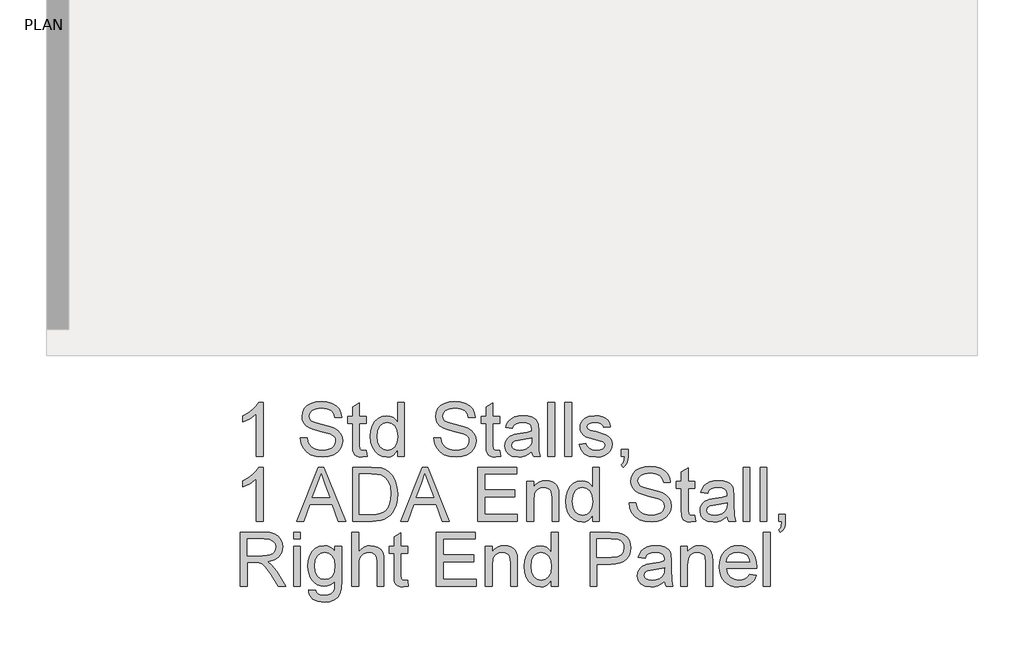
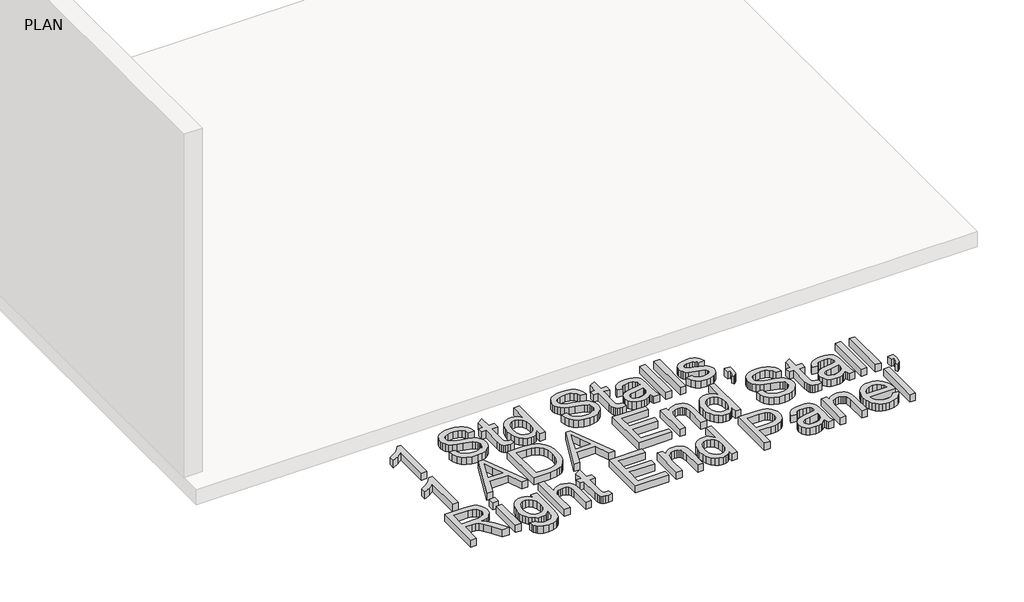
# One storey, part 18 of 21: 1 proxy.
"""IFC4 building model written with IfcOpenShell, lengths in millimetres."""

from ifc_helpers import new_model, si_unit, origin, origin_with_axes, place, context, project, spatial, polyline, outline, extrude, element, save

model = new_model("IFC4")

# Units and contexts
model_context = context("Model", 3, world=origin())
ifc_project = project(units=[si_unit("LENGTHUNIT", "METRE", prefix="MILLI")], contexts=[model_context])

# Site, building, storey
site = spatial("IfcSite", under=ifc_project)
building = spatial("IfcBuilding", under=site)
storey = spatial("IfcBuildingStorey", under=building, Name="PLAN", Elevation=0.0)

# Proxy
placement = place(None, origin())
element("IfcBuildingElementProxy", 1, Name="12\" Arial", ObjectType="12\" Arial", at=placement, inside=storey, context=model_context, shape_type="SweptSolid", body=[
    extrude(outline(polyline([(-13945.8570007, 20781.8395639), (-13983.9278874, 20781.8395639), (-13983.9278874, 21019.1877485), (-14019.9911298, 20993.4973357), (-14060.069661, 20974.2759993), (-14060.069661, 21010.2648844), (-14030.1687716, 21026.5305221), (-14004.2645818, 21045.8819836), (-13983.8442356, 21066.4603389), (-13970.3948769, 21086.4066579), (-13945.8570007, 21086.4066579), (-13945.8570007, 20781.8395639)])), origin_with_axes(), (0.0, 0.0, 1.0), 50.8),
    extrude(outline(polyline([(-13736.4671235, 20886.5345025), (-13698.3962368, 20886.5345025), (-13694.0277512, 20865.4077628), (-13686.1272986, 20848.4264371), (-13673.8025926, 20834.9491945), (-13656.1613468, 20824.3347041), (-13634.5977586, 20817.4473684), (-13610.5060255, 20815.1515898), (-13589.295634, 20816.8896894), (-13570.7249232, 20822.1039881), (-13555.6768847, 20830.3576373), (-13545.0345103, 20841.2137886), (-13538.7048536, 20853.6779144), (-13536.594968, 20866.7554871), (-13538.1750585, 20879.4984523), (-13542.9153301, 20890.5126127), (-13552.5445876, 20899.9095039), (-13568.7916359, 20907.8006619), (-13624.2249291, 20922.3374946), (-13660.6134842, 20931.9574574), (-13683.8965826, 20941.1126878), (-13702.8483741, 20953.9207156), (-13716.2791435, 20969.4427812), (-13724.2818373, 20987.3442773), (-13726.9494018, 21007.2905964), (-13723.649801, 21029.588462), (-13713.7509987, 21050.3805942), (-13697.513245, 21068.0032508), (-13675.1967901, 21080.7926893), (-13648.4096086, 21088.5723114), (-13618.7596748, 21091.1655188), (-13586.6373641, 21088.451481), (-13558.5303422, 21080.3093675), (-13535.4424314, 21066.9064821), (-13518.3774539, 21048.4101284), (-13507.5770705, 21025.9728431), (-13503.2829421, 21000.7471627), (-13541.3538289, 21000.7471627), (-13548.3434057, 21023.4632876), (-13562.9174171, 21039.8590503), (-13585.6893098, 21049.7857366), (-13617.2725308, 21053.094632), (-13649.5993238, 21049.8229152), (-13671.7763589, 21040.0077647), (-13684.602976, 21025.5638785), (-13688.8785151, 21008.4059544), (-13685.8484591, 20993.7761752), (-13676.7582914, 20982.0091482), (-13655.2690604, 20971.4876043), (-13614.5956716, 20960.7429888), (-13572.6210318, 20950.537463), (-13547.2280477, 20941.6331882), (-13525.5250398, 20927.8213382), (-13510.3840548, 20910.7749499), (-13501.4890747, 20890.6799164), (-13498.5240813, 20867.7221307), (-13501.9352179, 20844.2531392), (-13512.1686276, 20822.1783453), (-13528.8060513, 20803.1800805), (-13551.4292296, 20788.9406765), (-13578.6346704, 20780.0456964), (-13609.0188815, 20777.080703), (-13646.3183123, 20780.2780627), (-13677.0185416, 20789.8701416), (-13701.4727659, 20805.8941183), (-13720.0341822, 20828.3871715), (-13731.9499236, 20855.7878), (-13736.4671235, 20886.5345025)])), origin_with_axes(), (0.0, 0.0, 1.0), 50.8),
    extrude(outline(polyline([(-13365.2759776, 20813.5900886), (-13360.5171168, 20780.7242059), (-13388.9959246, 20777.080703), (-13407.2692067, 20778.6607935), (-13420.8951637, 20783.4010651), (-13430.5244212, 20790.7066601), (-13436.8076047, 20799.9827208), (-13440.2652145, 20815.9137511), (-13441.4177511, 20843.1842545), (-13441.4177511, 20967.4351368), (-13469.9709162, 20967.4351368), (-13469.9709162, 21005.5060236), (-13441.4177511, 21005.5060236), (-13441.4177511, 21059.8611373), (-13403.3468644, 21082.2426547), (-13403.3468644, 21005.5060236), (-13365.2759776, 21005.5060236), (-13365.2759776, 20967.4351368), (-13403.3468644, 20967.4351368), (-13403.3468644, 20844.2996125), (-13401.33922, 20824.6693115), (-13394.8329649, 20817.7169132), (-13381.8576334, 20815.1515898), (-13365.2759776, 20813.5900886)])), origin_with_axes(), (0.0, 0.0, 1.0), 50.8),
    extrude(outline(polyline([(-13189.1981264, 20781.8395639), (-13189.1981264, 20817.7540918), (-13200.58872, 20799.9594842), (-13214.3866281, 20787.2490502), (-13230.5918505, 20779.6227898), (-13249.2043873, 20777.080703), (-13273.8166208, 20780.7613845), (-13296.3468526, 20791.8034288), (-13315.4194746, 20809.43538), (-13329.6588785, 20832.8857822), (-13338.5259747, 20861.206581), (-13341.4816734, 20893.4497221), (-13338.7583409, 20925.2931933), (-13330.5883435, 20954.0508407), (-13316.9809758, 20978.0868058), (-13297.9455324, 20995.7652303), (-13274.9226841, 21006.6399709), (-13249.3531017, 21010.2648844), (-13230.726623, 21007.6716771), (-13214.256503, 20999.8920549), (-13200.2959386, 20987.9670189), (-13189.1981264, 20972.9375697), (-13189.1981264, 21086.4066579), (-13151.1272396, 21086.4066579), (-13151.1272396, 20781.8395639), (-13189.1981264, 20781.8395639)]), holes=[polyline([(-13303.4107866, 20893.5984365), (-13299.1166583, 20859.161758), (-13286.2342733, 20834.670355), (-13267.514848, 20820.0312811), (-13245.7095989, 20815.1515898), (-13223.9136444, 20819.8082095), (-13205.6682463, 20833.7780686), (-13193.3156564, 20857.3214172), (-13189.1981264, 20890.6985057), (-13193.3900136, 20927.1893019), (-13205.9656751, 20952.4893395), (-13224.6758057, 20967.2678331), (-13247.2711001, 20972.1939977), (-13269.2994208, 20967.4630208), (-13287.3496313, 20953.2700901), (-13299.3954978, 20928.8902229), (-13303.4107866, 20893.5984365)])]), origin_with_axes(), (0.0, 0.0, 1.0), 50.8),
    extrude(outline(polyline([(-12984.56711, 20886.5345025), (-12946.4962233, 20886.5345025), (-12942.1277377, 20865.4077628), (-12934.2272852, 20848.4264371), (-12921.9025791, 20834.9491945), (-12904.2613333, 20824.3347041), (-12882.6977451, 20817.4473684), (-12858.606012, 20815.1515898), (-12837.3956205, 20816.8896894), (-12818.8249097, 20822.1039881), (-12803.7768712, 20830.3576373), (-12793.1344968, 20841.2137886), (-12786.8048401, 20853.6779144), (-12784.6949546, 20866.7554871), (-12786.2750451, 20879.4984523), (-12791.0153166, 20890.5126127), (-12800.6445741, 20899.9095039), (-12816.8916225, 20907.8006619), (-12872.3249156, 20922.3374946), (-12908.7134707, 20931.9574574), (-12931.9965691, 20941.1126878), (-12950.9483607, 20953.9207156), (-12964.37913, 20969.4427812), (-12972.3818238, 20987.3442773), (-12975.0493883, 21007.2905964), (-12971.7497876, 21029.588462), (-12961.8509852, 21050.3805942), (-12945.6132315, 21068.0032508), (-12923.2967767, 21080.7926893), (-12896.5095951, 21088.5723114), (-12866.8596613, 21091.1655188), (-12834.7373506, 21088.451481), (-12806.6303288, 21080.3093675), (-12783.5424179, 21066.9064821), (-12766.4774404, 21048.4101284), (-12755.677057, 21025.9728431), (-12751.3829286, 21000.7471627), (-12789.4538154, 21000.7471627), (-12796.4433923, 21023.4632876), (-12811.0174036, 21039.8590503), (-12833.7892963, 21049.7857366), (-12865.3725173, 21053.094632), (-12897.6993103, 21049.8229152), (-12919.8763454, 21040.0077647), (-12932.7029625, 21025.5638785), (-12936.9785016, 21008.4059544), (-12933.9484457, 20993.7761752), (-12924.8582779, 20982.0091482), (-12903.3690469, 20971.4876043), (-12862.6956581, 20960.7429888), (-12820.7210183, 20950.537463), (-12795.3280343, 20941.6331882), (-12773.6250263, 20927.8213382), (-12758.4840413, 20910.7749499), (-12749.5890612, 20890.6799164), (-12746.6240678, 20867.7221307), (-12750.0352044, 20844.2531392), (-12760.2686141, 20822.1783453), (-12776.9060378, 20803.1800805), (-12799.5292161, 20788.9406765), (-12826.7346569, 20780.0456964), (-12857.118868, 20777.080703), (-12894.4182988, 20780.2780627), (-12925.1185281, 20789.8701416), (-12949.5727525, 20805.8941183), (-12968.1341687, 20828.3871715), (-12980.0499101, 20855.7878), (-12984.56711, 20886.5345025)])), origin_with_axes(), (0.0, 0.0, 1.0), 50.8),
    extrude(outline(polyline([(-12613.3759641, 20813.5900886), (-12608.6171033, 20780.7242059), (-12637.0959112, 20777.080703), (-12655.3691932, 20778.6607935), (-12668.9951503, 20783.4010651), (-12678.6244078, 20790.7066601), (-12684.9075912, 20799.9827208), (-12688.365201, 20815.9137511), (-12689.5177377, 20843.1842545), (-12689.5177377, 20967.4351368), (-12718.0709027, 20967.4351368), (-12718.0709027, 21005.5060236), (-12689.5177377, 21005.5060236), (-12689.5177377, 21059.8611373), (-12651.4468509, 21082.2426547), (-12651.4468509, 21005.5060236), (-12613.3759641, 21005.5060236), (-12613.3759641, 20967.4351368), (-12651.4468509, 20967.4351368), (-12651.4468509, 20844.2996125), (-12649.4392065, 20824.6693115), (-12642.9329514, 20817.7169132), (-12629.9576199, 20815.1515898), (-12613.3759641, 20813.5900886)])), origin_with_axes(), (0.0, 0.0, 1.0), 50.8),
    extrude(outline(polyline([(-12432.539252, 20810.3927289), (-12450.7288823, 20794.7963061), (-12469.4576022, 20784.5907803), (-12489.1529657, 20778.9582224), (-12510.2425268, 20777.080703), (-12542.058114, 20781.597903), (-12565.5271055, 20795.1495028), (-12579.9988757, 20815.7278581), (-12584.8227991, 20841.3253244), (-12583.0010477, 20857.1076403), (-12577.5357934, 20871.4399907), (-12569.1055458, 20883.7089288), (-12558.3888142, 20893.3010077), (-12531.7317578, 20905.7930174), (-12498.7915179, 20911.5185219), (-12459.8655233, 20917.5414552), (-12432.7623236, 20924.6053892), (-12432.539252, 20933.0821101), (-12435.1603434, 20950.0727305), (-12443.0236173, 20961.189132), (-12460.6090953, 20969.4427812), (-12485.1097929, 20972.1939977), (-12507.7887391, 20970.3629516), (-12523.6268229, 20964.8698134), (-12534.4272063, 20954.7107609), (-12541.9930515, 20938.8819718), (-12580.0639382, 20943.6408326), (-12573.455442, 20964.4608488), (-12563.5938183, 20980.819433), (-12549.5588966, 20993.330032), (-12530.4305068, 21002.6060928), (-12507.0358725, 21008.3501865), (-12480.2022177, 21010.2648844), (-12454.4653316, 21008.5732581), (-12434.0635747, 21003.4983792), (-12418.6809288, 20995.8674714), (-12408.0013758, 20986.5077588), (-12400.9188524, 20974.9359194), (-12396.3272953, 20960.6686316), (-12394.4683653, 20927.3566056), (-12394.4683653, 20879.9910688), (-12392.5350781, 20813.8503388), (-12384.9506436, 20781.8395639), (-12423.0215303, 20781.8395639), (-12429.1188208, 20795.0751456), (-12432.539252, 20810.3927289)]), holes=[polyline([(-12432.539252, 20886.5345025), (-12493.9582998, 20874.860422), (-12526.7126467, 20868.6887743), (-12541.5469083, 20858.6505522), (-12546.7519123, 20844.0021837), (-12543.917044, 20832.6812999), (-12535.4124392, 20823.4052391), (-12521.4239908, 20817.2150021), (-12502.1375919, 20815.1515898), (-12481.6893617, 20817.4287791), (-12463.6205619, 20824.2603469), (-12448.9721934, 20834.3264529), (-12438.7852569, 20846.3072569), (-12434.268057, 20858.6505522), (-12432.7623236, 20875.7527084), (-12432.539252, 20886.5345025)])]), origin_with_axes(), (0.0, 0.0, 1.0), 50.8),
    extrude(outline(polyline([(-12342.120896, 20781.8395639), (-12342.120896, 21086.4066579), (-12304.0500092, 21086.4066579), (-12304.0500092, 20781.8395639), (-12342.120896, 20781.8395639)])), origin_with_axes(), (0.0, 0.0, 1.0), 50.8),
    extrude(outline(polyline([(-12246.9436791, 20781.8395639), (-12246.9436791, 21086.4066579), (-12208.8727923, 21086.4066579), (-12208.8727923, 20781.8395639), (-12246.9436791, 20781.8395639)])), origin_with_axes(), (0.0, 0.0, 1.0), 50.8),
    extrude(outline(polyline([(-12166.0430447, 20848.4636157), (-12127.972158, 20853.2224765), (-12121.967814, 20836.9382496), (-12110.3495014, 20824.9667403), (-12093.0428629, 20817.6053774), (-12069.9735414, 20815.1515898), (-12047.1830594, 20817.4008951), (-12031.1590827, 20824.1488111), (-12021.6785396, 20833.926783), (-12018.5183585, 20845.2662561), (-12021.6971289, 20854.9698708), (-12031.2334399, 20862.3684122), (-12070.4196846, 20873.2245635), (-12127.7490864, 20891.8510423), (-12142.2580352, 20901.210755), (-12152.7702844, 20913.6005235), (-12159.155709, 20928.2303028), (-12161.2841839, 20944.3100474), (-12159.5739683, 20959.0606571), (-12154.4433214, 20972.6773195), (-12146.3569758, 20984.6209448), (-12135.779664, 20994.3524435), (-12111.5763952, 21005.6175594), (-12078.8220483, 21010.2648844), (-12054.0425112, 21008.3966598), (-12032.4975123, 21002.7919858), (-12015.1722845, 20993.9992468), (-12003.0520608, 20982.5668272), (-11995.0214831, 20967.6489138), (-11989.9651935, 20948.3996934), (-12028.0360802, 20943.6408326), (-12032.8414143, 20955.6216366), (-12042.3498414, 20964.6467418), (-12056.6543078, 20970.3071837), (-12075.8477603, 20972.1939977), (-12097.7087773, 20970.3908356), (-12112.2827886, 20964.9813492), (-12120.48067, 20957.1738431), (-12123.2132971, 20948.1766218), (-12118.6775079, 20937.0973989), (-12104.4752825, 20928.6950353), (-12071.683757, 20920.5901004), (-12015.8043207, 20902.670015), (-12001.0444164, 20894.1003476), (-11989.8536577, 20882.3704992), (-11982.7990183, 20867.4432912), (-11980.4474718, 20849.2815449), (-11983.2079829, 20830.5063517), (-11991.4895161, 20812.8465166), (-12004.9760534, 20797.6869423), (-12023.3515766, 20786.4125317), (-12045.547201, 20779.4136602), (-12070.4940418, 20777.080703), (-12108.8809467, 20781.5793137), (-12136.8950221, 20795.0751456), (-12155.595858, 20817.4194844), (-12166.0430447, 20848.4636157)])), origin_with_axes(), (0.0, 0.0, 1.0), 50.8),
    extrude(outline(polyline([(-11928.1000025, 20781.8395639), (-11928.1000025, 20819.9104506), (-11890.0291157, 20819.9104506), (-11890.0291157, 20781.8395639), (-11891.7393313, 20760.0621987), (-11896.8699782, 20742.9135693), (-11905.7184851, 20729.7616394), (-11918.5822808, 20719.9743729), (-11928.1000025, 20734.2509554), (-11919.8463532, 20741.1475858), (-11914.1208488, 20750.6838968), (-11909.1389163, 20781.8395639), (-11928.1000025, 20781.8395639)])), origin_with_axes(), (0.0, 0.0, 1.0), 50.8),
    extrude(outline(polyline([(-13945.8570007, 20415.7868995), (-13983.9278874, 20415.7868995), (-13983.9278874, 20653.1350842), (-14019.9911298, 20627.4446713), (-14060.069661, 20608.223335), (-14060.069661, 20644.2122201), (-14030.1687716, 20660.4778577), (-14004.2645818, 20679.8293192), (-13983.8442356, 20700.4076745), (-13970.3948769, 20720.3539936), (-13945.8570007, 20720.3539936), (-13945.8570007, 20415.7868995)])), origin_with_axes(), (0.0, 0.0, 1.0), 50.8),
    extrude(outline(polyline([(-13757.6589257, 20415.7868995), (-13636.0849026, 20720.3539936), (-13603.6651631, 20720.3539936), (-13482.0911399, 20415.7868995), (-13522.3183855, 20415.7868995), (-13557.1919126, 20510.9641164), (-13682.6325102, 20510.9641164), (-13717.4316801, 20415.7868995), (-13757.6589257, 20415.7868995)]), holes=[polyline([(-13668.6533565, 20549.0350032), (-13571.0967092, 20549.0350032), (-13598.5345162, 20623.9127043), (-13619.8750328, 20682.2831068), (-13638.836119, 20630.456138), (-13668.6533565, 20549.0350032)])]), origin_with_axes(), (0.0, 0.0, 1.0), 50.8),
    extrude(outline(polyline([(-13441.4177511, 20415.7868995), (-13441.4177511, 20720.3539936), (-13336.3510265, 20720.3539936), (-13281.9959128, 20715.9669188), (-13257.7182868, 20707.5087872), (-13237.232878, 20694.180259), (-13216.1712009, 20670.9808123), (-13201.1696357, 20642.1302185), (-13192.1910037, 20608.1861564), (-13189.1981264, 20569.706305), (-13191.2243601, 20537.0170206), (-13197.3030612, 20508.2500786), (-13206.5605327, 20483.7586756), (-13218.1230774, 20463.8960084), (-13231.4330164, 20448.2159337), (-13245.9326705, 20436.2723083), (-13262.5793888, 20427.4145068), (-13282.3305202, 20420.9919036), (-13331.2947369, 20415.7868995), (-13441.4177511, 20415.7868995)]), holes=[polyline([(-13403.3468644, 20453.8577863), (-13335.9792405, 20453.8577863), (-13308.1138796, 20455.2333945), (-13286.9778453, 20459.3602191), (-13271.0282257, 20465.9965993), (-13258.722109, 20474.9008741), (-13245.4958219, 20491.3802887), (-13235.559841, 20512.7115107), (-13229.3417201, 20538.9874864), (-13227.2690131, 20570.3011626), (-13231.3307752, 20611.7924806), (-13243.5160615, 20642.4276473), (-13261.5197987, 20663.4707351), (-13283.0369136, 20676.1858164), (-13304.9351093, 20680.7587842), (-13337.0202414, 20682.2831068), (-13403.3468644, 20682.2831068), (-13403.3468644, 20453.8577863)])]), origin_with_axes(), (0.0, 0.0, 1.0), 50.8),
    extrude(outline(polyline([(-13172.3190418, 20415.7868995), (-13050.7450187, 20720.3539936), (-13018.3252792, 20720.3539936), (-12896.751256, 20415.7868995), (-12936.9785016, 20415.7868995), (-12971.8520287, 20510.9641164), (-13097.2926263, 20510.9641164), (-13132.0917962, 20415.7868995), (-13172.3190418, 20415.7868995)]), holes=[polyline([(-13083.3134726, 20549.0350032), (-12985.7568252, 20549.0350032), (-13013.1946323, 20623.9127043), (-13034.5351489, 20682.2831068), (-13053.4962351, 20630.456138), (-13083.3134726, 20549.0350032)])]), origin_with_axes(), (0.0, 0.0, 1.0), 50.8),
    extrude(outline(polyline([(-12737.1063461, 20415.7868995), (-12737.1063461, 20720.3539936), (-12518.1987472, 20720.3539936), (-12518.1987472, 20682.2831068), (-12699.0354593, 20682.2831068), (-12699.0354593, 20591.8647508), (-12527.7164689, 20591.8647508), (-12527.7164689, 20553.793864), (-12699.0354593, 20553.793864), (-12699.0354593, 20453.8577863), (-12513.4398864, 20453.8577863), (-12513.4398864, 20415.7868995), (-12737.1063461, 20415.7868995)])), origin_with_axes(), (0.0, 0.0, 1.0), 50.8),
    extrude(outline(polyline([(-12461.0924171, 20415.7868995), (-12461.0924171, 20639.4533592), (-12423.0215303, 20639.4533592), (-12423.0215303, 20608.223335), (-12409.7952433, 20623.9684722), (-12393.9106863, 20635.2149988), (-12375.3678593, 20641.9629148), (-12354.1667625, 20644.2122201), (-12335.400864, 20642.3997633), (-12318.215056, 20636.962393), (-12303.8827055, 20628.5786186), (-12293.6771797, 20617.9269496), (-12282.2633494, 20589.9314636), (-12280.255705, 20553.1246492), (-12280.255705, 20415.7868995), (-12318.3265918, 20415.7868995), (-12318.3265918, 20547.9940024), (-12322.7136666, 20581.6778143), (-12328.7830731, 20591.7067417), (-12338.2171429, 20599.4863639), (-12350.3094827, 20604.477591), (-12364.353699, 20606.1413333), (-12386.6515646, 20602.404884), (-12405.659124, 20591.195536), (-12413.2551768, 20582.044953), (-12418.6809288, 20569.5390013), (-12423.0215303, 20534.4609919), (-12423.0215303, 20415.7868995), (-12461.0924171, 20415.7868995)])), origin_with_axes(), (0.0, 0.0, 1.0), 50.8),
    extrude(outline(polyline([(-12089.9012712, 20415.7868995), (-12089.9012712, 20451.7014275), (-12101.2918649, 20433.9068199), (-12115.0897729, 20421.1963859), (-12131.2949954, 20413.5701255), (-12149.9075322, 20411.0280387), (-12174.5197656, 20414.7087201), (-12197.0499974, 20425.7507644), (-12216.1226194, 20443.3827156), (-12230.3620233, 20466.8331178), (-12239.2291195, 20495.1539166), (-12242.1848182, 20527.3970578), (-12239.4614858, 20559.240529), (-12231.2914883, 20587.9981764), (-12217.6841206, 20612.0341415), (-12198.6486772, 20629.712566), (-12175.625829, 20640.5873066), (-12150.0562466, 20644.2122201), (-12131.4297678, 20641.6190127), (-12114.9596478, 20633.8393906), (-12100.9990834, 20621.9143545), (-12089.9012712, 20606.8849053), (-12089.9012712, 20720.3539936), (-12051.8303845, 20720.3539936), (-12051.8303845, 20415.7868995), (-12089.9012712, 20415.7868995)]), holes=[polyline([(-12204.1139315, 20527.5457722), (-12199.8198031, 20493.1090936), (-12186.9374181, 20468.6176906), (-12168.2179928, 20453.9786167), (-12146.4127437, 20449.0989255), (-12124.6167893, 20453.7555451), (-12106.3713912, 20467.7254042), (-12094.0188012, 20491.2687529), (-12089.9012712, 20524.6458414), (-12094.0931584, 20561.1366376), (-12106.66882, 20586.4366751), (-12125.3789506, 20601.2151688), (-12147.974245, 20606.1413333), (-12170.0025657, 20601.4103564), (-12188.0527761, 20587.2174258), (-12200.0986426, 20562.8375586), (-12204.1139315, 20527.5457722)])]), origin_with_axes(), (0.0, 0.0, 1.0), 50.8),
    extrude(outline(polyline([(-11885.2702549, 20520.4818381), (-11847.1993681, 20520.4818381), (-11842.8308826, 20499.3550985), (-11834.93043, 20482.3737728), (-11822.605724, 20468.8965301), (-11804.9644781, 20458.2820397), (-11783.4008899, 20451.394704), (-11759.3091569, 20449.0989255), (-11738.0987654, 20450.837025), (-11719.5280545, 20456.0513237), (-11704.480016, 20464.304973), (-11693.8376417, 20475.1611243), (-11687.507985, 20487.6252501), (-11685.3980994, 20500.7028227), (-11686.9781899, 20513.445788), (-11691.7184615, 20524.4599484), (-11701.3477189, 20533.8568396), (-11717.5947673, 20541.7479975), (-11773.0280604, 20556.2848303), (-11809.4166155, 20565.9047931), (-11832.699714, 20575.0600234), (-11851.6515055, 20587.8680513), (-11865.0822749, 20603.3901169), (-11873.0849686, 20621.291613), (-11875.7525332, 20641.2379321), (-11872.4529324, 20663.5357976), (-11862.5541301, 20684.3279299), (-11846.3163764, 20701.9505864), (-11823.9999215, 20714.740025), (-11797.21274, 20722.5196471), (-11767.5628062, 20725.1128545), (-11735.4404955, 20722.3988166), (-11707.3334736, 20714.2567031), (-11684.2455628, 20700.8538177), (-11667.1805852, 20682.357464), (-11656.3802018, 20659.9201787), (-11652.0860735, 20634.6944984), (-11690.1569602, 20634.6944984), (-11697.1465371, 20657.4106232), (-11711.7205484, 20673.806386), (-11734.4924412, 20683.7330723), (-11766.0756622, 20687.0419677), (-11798.4024552, 20683.7702509), (-11820.5794903, 20673.9551004), (-11833.4061074, 20659.5112141), (-11837.6816464, 20642.3532901), (-11834.6515905, 20627.7235108), (-11825.5614227, 20615.9564838), (-11804.0721917, 20605.4349399), (-11763.3988029, 20594.6903244), (-11721.4241631, 20584.4847986), (-11696.0311791, 20575.5805238), (-11674.3281711, 20561.7686738), (-11659.1871862, 20544.7222856), (-11650.292206, 20524.6272521), (-11647.3272126, 20501.6694663), (-11650.7383492, 20478.2004749), (-11660.971759, 20456.1256809), (-11677.6091826, 20437.1274161), (-11700.2323609, 20422.8880122), (-11727.4378017, 20413.9930321), (-11757.8220129, 20411.0280387), (-11795.1214437, 20414.2253983), (-11825.8216729, 20423.8174772), (-11850.2758973, 20439.841454), (-11868.8373135, 20462.3345072), (-11880.7530549, 20489.7351356), (-11885.2702549, 20520.4818381)])), origin_with_axes(), (0.0, 0.0, 1.0), 50.8),
    extrude(outline(polyline([(-11514.079109, 20447.5374242), (-11509.3202481, 20414.6715415), (-11537.799056, 20411.0280387), (-11556.0723381, 20412.6081292), (-11569.6982951, 20417.3484008), (-11579.3275526, 20424.6539957), (-11585.6107361, 20433.9300565), (-11589.0683459, 20449.8610868), (-11590.2208825, 20477.1315901), (-11590.2208825, 20601.3824725), (-11618.7740476, 20601.3824725), (-11618.7740476, 20639.4533592), (-11590.2208825, 20639.4533592), (-11590.2208825, 20693.808473), (-11552.1499957, 20716.1899904), (-11552.1499957, 20639.4533592), (-11514.079109, 20639.4533592), (-11514.079109, 20601.3824725), (-11552.1499957, 20601.3824725), (-11552.1499957, 20478.2469481), (-11550.1423513, 20458.6166471), (-11543.6360963, 20451.6642489), (-11530.6607647, 20449.0989255), (-11514.079109, 20447.5374242)])), origin_with_axes(), (0.0, 0.0, 1.0), 50.8),
    extrude(outline(polyline([(-11333.2423969, 20444.3400646), (-11351.4320271, 20428.7436418), (-11370.160747, 20418.538116), (-11389.8561106, 20412.905558), (-11410.9456716, 20411.0280387), (-11442.7612589, 20415.5452386), (-11466.2302503, 20429.0968385), (-11480.7020205, 20449.6751938), (-11485.5259439, 20475.2726601), (-11483.7041925, 20491.0549759), (-11478.2389382, 20505.3873264), (-11469.8086906, 20517.6562645), (-11459.0919591, 20527.2483434), (-11432.4349026, 20539.7403531), (-11399.4946627, 20545.4658576), (-11360.5686681, 20551.4887908), (-11333.4654685, 20558.5527249), (-11333.2423969, 20567.0294458), (-11335.8634882, 20584.0200661), (-11343.7267622, 20595.1364676), (-11361.3122401, 20603.3901169), (-11385.8129378, 20606.1413333), (-11408.491884, 20604.3102873), (-11424.3299677, 20598.8171491), (-11435.1303511, 20588.6580965), (-11442.6961963, 20572.8293074), (-11480.7670831, 20577.5881683), (-11474.1585869, 20598.4081845), (-11464.2969631, 20614.7667686), (-11450.2620415, 20627.2773676), (-11431.1336516, 20636.5534284), (-11407.7390173, 20642.2975222), (-11380.9053625, 20644.2122201), (-11355.1684764, 20642.5205938), (-11334.7667195, 20637.4457148), (-11319.3840736, 20629.8148071), (-11308.7045207, 20620.4550945), (-11301.6219973, 20608.8832551), (-11297.0304401, 20594.6159672), (-11295.1715101, 20561.3039413), (-11295.1715101, 20513.9384045), (-11293.2382229, 20447.7976744), (-11285.6537884, 20415.7868995), (-11323.7246752, 20415.7868995), (-11329.8219657, 20429.0224813), (-11333.2423969, 20444.3400646)]), holes=[polyline([(-11333.2423969, 20520.4818381), (-11394.6614447, 20508.8077576), (-11427.4157916, 20502.63611), (-11442.2500531, 20492.5978879), (-11447.4550572, 20477.9495193), (-11444.6201889, 20466.6286355), (-11436.1155841, 20457.3525747), (-11422.1271357, 20451.1623378), (-11402.8407367, 20449.0989255), (-11382.3925065, 20451.3761147), (-11364.3237068, 20458.2076825), (-11349.6753382, 20468.2737886), (-11339.4884017, 20480.2545925), (-11334.9712018, 20492.5978879), (-11333.4654685, 20509.700044), (-11333.2423969, 20520.4818381)])]), origin_with_axes(), (0.0, 0.0, 1.0), 50.8),
    extrude(outline(polyline([(-11242.8240408, 20415.7868995), (-11242.8240408, 20720.3539936), (-11204.7531541, 20720.3539936), (-11204.7531541, 20415.7868995), (-11242.8240408, 20415.7868995)])), origin_with_axes(), (0.0, 0.0, 1.0), 50.8),
    extrude(outline(polyline([(-11147.6468239, 20415.7868995), (-11147.6468239, 20720.3539936), (-11109.5759372, 20720.3539936), (-11109.5759372, 20415.7868995), (-11147.6468239, 20415.7868995)])), origin_with_axes(), (0.0, 0.0, 1.0), 50.8),
    extrude(outline(polyline([(-11042.9518853, 20415.7868995), (-11042.9518853, 20453.8577863), (-11004.8809986, 20453.8577863), (-11004.8809986, 20415.7868995), (-11006.5912142, 20394.0095344), (-11011.7218611, 20376.860905), (-11020.5703679, 20363.7089751), (-11033.4341637, 20353.9217086), (-11042.9518853, 20368.1982911), (-11034.6982361, 20375.0949215), (-11028.9727316, 20384.6312324), (-11023.9907992, 20415.7868995), (-11042.9518853, 20415.7868995)])), origin_with_axes(), (0.0, 0.0, 1.0), 50.8),
    extrude(outline(polyline([(-14074.3462435, 20049.7342352), (-14074.3462435, 20354.3013293), (-13943.1057843, 20354.3013293), (-13907.8325872, 20352.2472116), (-13882.1700583, 20346.0848586), (-13863.4134544, 20334.7082069), (-13848.8580324, 20317.0111931), (-13839.516909, 20295.0665243), (-13836.4032013, 20270.9469073), (-13841.5617321, 20240.9437768), (-13857.0373245, 20216.0712932), (-13868.7602019, 20205.9354772), (-13883.2947109, 20197.8351897), (-13920.7986241, 20187.7411997), (-13899.1606786, 20171.4569727), (-13868.3024404, 20132.270728), (-13817.5164723, 20049.7342352), (-13861.7590067, 20049.7342352), (-13901.3913947, 20112.8634986), (-13930.0189169, 20154.6522454), (-13950.1325397, 20174.3940822), (-13968.2385181, 20181.6439092), (-13990.3226067, 20182.9823389), (-14036.2753567, 20182.9823389), (-14036.2753567, 20049.7342352), (-14074.3462435, 20049.7342352)]), holes=[polyline([(-14036.2753567, 20221.0532256), (-13951.0620047, 20221.0532256), (-13926.5891911, 20222.4009499), (-13907.6002209, 20226.4441227), (-13893.3050491, 20233.4522888), (-13882.9136303, 20243.6949932), (-13876.5839736, 20256.0847618), (-13874.474088, 20269.5341205), (-13878.4986715, 20288.1048313), (-13890.572422, 20303.069218), (-13911.3459649, 20312.9401364), (-13941.4699258, 20316.2304425), (-14036.2753567, 20316.2304425), (-14036.2753567, 20221.0532256)])]), origin_with_axes(), (0.0, 0.0, 1.0), 50.8),
    extrude(outline(polyline([(-13774.5380103, 20316.2304425), (-13774.5380103, 20354.3013293), (-13736.4671235, 20354.3013293), (-13736.4671235, 20316.2304425), (-13774.5380103, 20316.2304425)])), origin_with_axes(), (0.0, 0.0, 1.0), 50.8),
    extrude(outline(polyline([(-13774.5380103, 20049.7342352), (-13774.5380103, 20273.4006949), (-13736.4671235, 20273.4006949), (-13736.4671235, 20049.7342352), (-13774.5380103, 20049.7342352)])), origin_with_axes(), (0.0, 0.0, 1.0), 50.8),
    extrude(outline(polyline([(-13688.8785151, 20030.6987918), (-13650.8076283, 20025.939931), (-13646.6064465, 20014.0427789), (-13638.464333, 20005.8634868), (-13622.4589455, 19999.5059461), (-13601.5088042, 19997.3867659), (-13579.1644654, 19999.7847856), (-13562.5456311, 20006.9788448), (-13551.020265, 20018.5042109), (-13543.9563309, 20033.8961514), (-13541.3538289, 20078.2874003), (-13554.0224369, 20065.7953906), (-13568.1595997, 20056.8725265), (-13583.7653172, 20051.518808), (-13600.8395894, 20049.7342352), (-13621.7130499, 20051.8115895), (-13640.0908968, 20058.0436524), (-13655.9731301, 20068.4304239), (-13669.3597499, 20082.9719039), (-13679.9812113, 20100.4179621), (-13687.5679694, 20119.5184681), (-13692.1200243, 20140.2734217), (-13693.6373759, 20162.6828231), (-13690.9140434, 20193.4202309), (-13682.744046, 20221.6852618), (-13669.4155178, 20245.6375751), (-13651.2165929, 20263.43683), (-13628.770013, 20274.4788743), (-13602.6985195, 20278.1595558), (-13584.8946172, 20276.0775541), (-13568.735868, 20269.8315493), (-13554.2222719, 20259.4215412), (-13541.3538289, 20244.8475298), (-13541.3538289, 20273.4006949), (-13503.2829421, 20273.4006949), (-13503.2829421, 20080.2950447), (-13505.8854441, 20035.7086082), (-13513.6929502, 20006.3468086), (-13527.1423089, 19986.8745167), (-13546.6703687, 19971.9566033), (-13571.8495758, 19962.4760602), (-13602.2523763, 19959.3158791), (-13637.6742877, 19963.7680165), (-13665.5675326, 19977.1244287), (-13676.0728109, 19987.1510325), (-13683.4597341, 19999.4222943), (-13687.7283021, 20013.938214), (-13688.8785151, 20030.6987918)]), holes=[polyline([(-13655.5664892, 20165.2853251), (-13651.5047271, 20130.3653247), (-13639.3194408, 20106.3572435), (-13620.9996855, 20092.4431524), (-13598.5345162, 20087.805122), (-13576.2366507, 20092.4152684), (-13557.8239488, 20106.2457077), (-13545.4713589, 20129.9470655), (-13541.3538289, 20164.1699671), (-13545.5921893, 20197.1752695), (-13558.3072706, 20220.9416898), (-13576.9895173, 20235.3019242), (-13599.1293738, 20240.088669), (-13620.8695604, 20235.3762814), (-13639.0963692, 20221.2391186), (-13651.4489592, 20197.825895), (-13655.5664892, 20165.2853251)])]), origin_with_axes(), (0.0, 0.0, 1.0), 50.8),
    extrude(outline(polyline([(-13446.176612, 20049.7342352), (-13446.176612, 20354.3013293), (-13408.1057252, 20354.3013293), (-13408.1057252, 20242.319385), (-13394.1219242, 20257.9994597), (-13378.4186128, 20269.1995131), (-13360.9957913, 20275.9195451), (-13341.8534594, 20278.1595558), (-13318.8584951, 20275.7150628), (-13299.098069, 20268.3815839), (-13283.5388248, 20256.7353873), (-13273.147406, 20241.3527414), (-13267.2917764, 20220.2167071), (-13265.3398999, 20191.3103453), (-13265.3398999, 20049.7342352), (-13303.4107866, 20049.7342352), (-13303.4107866, 20187.3694137), (-13306.4408426, 20211.2008965), (-13315.5310104, 20227.5223021), (-13330.1793789, 20236.9470773), (-13349.8840371, 20240.088669), (-13365.9730764, 20237.9694888), (-13381.0768828, 20231.6119481), (-13393.5874818, 20221.6294939), (-13401.896899, 20208.6355731), (-13406.5535187, 20191.3661132), (-13408.1057252, 20168.5570419), (-13408.1057252, 20049.7342352), (-13446.176612, 20049.7342352)])), origin_with_axes(), (0.0, 0.0, 1.0), 50.8),
    extrude(outline(polyline([(-13132.0917962, 20081.4847599), (-13127.3329354, 20048.6188772), (-13155.8117432, 20044.9753744), (-13174.0850253, 20046.5554649), (-13187.7109823, 20051.2957364), (-13197.3402398, 20058.6013314), (-13203.6234233, 20067.8773922), (-13207.0810331, 20083.8084224), (-13208.2335697, 20111.0789258), (-13208.2335697, 20235.3298081), (-13236.7867348, 20235.3298081), (-13236.7867348, 20273.4006949), (-13208.2335697, 20273.4006949), (-13208.2335697, 20327.7558086), (-13170.162683, 20350.137326), (-13170.162683, 20273.4006949), (-13132.0917962, 20273.4006949), (-13132.0917962, 20235.3298081), (-13170.162683, 20235.3298081), (-13170.162683, 20112.1942838), (-13168.1550386, 20092.5639828), (-13161.6487835, 20085.6115845), (-13148.673452, 20083.0462611), (-13132.0917962, 20081.4847599)])), origin_with_axes(), (0.0, 0.0, 1.0), 50.8),
    extrude(outline(polyline([(-12970.2905275, 20049.7342352), (-12970.2905275, 20354.3013293), (-12751.3829286, 20354.3013293), (-12751.3829286, 20316.2304425), (-12932.2196407, 20316.2304425), (-12932.2196407, 20225.8120865), (-12760.9006503, 20225.8120865), (-12760.9006503, 20187.7411997), (-12932.2196407, 20187.7411997), (-12932.2196407, 20087.805122), (-12746.6240678, 20087.805122), (-12746.6240678, 20049.7342352), (-12970.2905275, 20049.7342352)])), origin_with_axes(), (0.0, 0.0, 1.0), 50.8),
    extrude(outline(polyline([(-12694.2765985, 20049.7342352), (-12694.2765985, 20273.4006949), (-12656.2057117, 20273.4006949), (-12656.2057117, 20242.1706706), (-12642.9794247, 20257.9158079), (-12627.0948677, 20269.1623345), (-12608.5520407, 20275.9102504), (-12587.3509439, 20278.1595558), (-12568.5850454, 20276.347099), (-12551.3992374, 20270.9097287), (-12537.0668869, 20262.5259543), (-12526.8613611, 20251.8742853), (-12515.4475308, 20223.8787992), (-12513.4398864, 20187.0719849), (-12513.4398864, 20049.7342352), (-12551.5107732, 20049.7342352), (-12551.5107732, 20181.941338), (-12555.897848, 20215.62515), (-12561.9672545, 20225.6540774), (-12571.4013243, 20233.4336995), (-12583.4936641, 20238.4249266), (-12597.5378804, 20240.088669), (-12619.8357459, 20236.3522197), (-12638.8433054, 20225.1428717), (-12646.4393582, 20215.9922886), (-12651.8651102, 20203.4863369), (-12656.2057117, 20168.4083275), (-12656.2057117, 20049.7342352), (-12694.2765985, 20049.7342352)])), origin_with_axes(), (0.0, 0.0, 1.0), 50.8),
    extrude(outline(polyline([(-12323.0854526, 20049.7342352), (-12323.0854526, 20085.6487631), (-12334.4760463, 20067.8541555), (-12348.2739543, 20055.1437216), (-12364.4791768, 20047.5174612), (-12383.0917136, 20044.9753744), (-12407.703947, 20048.6560558), (-12430.2341788, 20059.6981001), (-12449.3068008, 20077.3300513), (-12463.5462047, 20100.7804535), (-12472.4133009, 20129.1012523), (-12475.3689996, 20161.3443935), (-12472.6456672, 20193.1878647), (-12464.4756697, 20221.945512), (-12450.868302, 20245.9814771), (-12431.8328586, 20263.6599016), (-12408.8100104, 20274.5346422), (-12383.240428, 20278.1595558), (-12364.6139492, 20275.5663484), (-12348.1438292, 20267.7867263), (-12334.1832648, 20255.8616902), (-12323.0854526, 20240.832241), (-12323.0854526, 20354.3013293), (-12285.0145658, 20354.3013293), (-12285.0145658, 20049.7342352), (-12323.0854526, 20049.7342352)]), holes=[polyline([(-12437.2981129, 20161.4931079), (-12433.0039845, 20127.0564293), (-12420.1215995, 20102.5650263), (-12401.4021742, 20087.9259524), (-12379.5969251, 20083.0462611), (-12357.8009707, 20087.7028808), (-12339.5555726, 20101.6727399), (-12327.2029826, 20125.2160886), (-12323.0854526, 20158.593177), (-12327.2773398, 20195.0839733), (-12339.8530014, 20220.3840108), (-12358.563132, 20235.1625044), (-12381.1584264, 20240.088669), (-12403.1867471, 20235.3576921), (-12421.2369575, 20221.1647614), (-12433.282824, 20196.7848942), (-12437.2981129, 20161.4931079)])]), origin_with_axes(), (0.0, 0.0, 1.0), 50.8),
    extrude(outline(polyline([(-12104.1778537, 20049.7342352), (-12104.1778537, 20354.3013293), (-11991.3036231, 20354.3013293), (-11945.7970163, 20351.4013984), (-11925.5067951, 20345.9826174), (-11908.8043089, 20337.1619945), (-11895.3549502, 20324.5398597), (-11884.8241117, 20307.716543), (-11878.0204278, 20287.8724651), (-11875.7525332, 20266.1880464), (-11877.2838268, 20247.4918578), (-11881.8777076, 20230.2921078), (-11889.5341756, 20214.5887965), (-11900.2532308, 20200.3819238), (-11914.9689856, 20188.6056022), (-11934.6155522, 20180.1939438), (-11959.1929307, 20175.1469488), (-11988.7011211, 20173.4646172), (-12066.106967, 20173.4646172), (-12066.106967, 20049.7342352), (-12104.1778537, 20049.7342352)]), holes=[polyline([(-12066.106967, 20211.5355039), (-11986.470405, 20211.5355039), (-11952.7122359, 20215.0302924), (-11930.4050757, 20225.5146577), (-11917.9688339, 20242.3379743), (-11913.82342, 20264.8496168), (-11916.2679129, 20281.951773), (-11923.6013918, 20296.3770699), (-11934.912981, 20307.2332212), (-11949.2918047, 20313.6279405), (-11987.3626914, 20316.2304425), (-12066.106967, 20316.2304425), (-12066.106967, 20211.5355039)])]), origin_with_axes(), (0.0, 0.0, 1.0), 50.8),
    extrude(outline(polyline([(-11685.3980994, 20078.2874003), (-11703.5877296, 20062.6909774), (-11722.3164495, 20052.4854516), (-11742.0118131, 20046.8528937), (-11763.1013741, 20044.9753744), (-11794.9169614, 20049.4925743), (-11818.3859529, 20063.0441741), (-11832.857723, 20083.6225294), (-11837.6816464, 20109.2199958), (-11835.859895, 20125.0023116), (-11830.3946408, 20139.334662), (-11821.9643931, 20151.6036002), (-11811.2476616, 20161.195679), (-11784.5906051, 20173.6876888), (-11751.6503652, 20179.4131932), (-11712.7243707, 20185.4361265), (-11685.621171, 20192.5000605), (-11685.3980994, 20200.9767814), (-11688.0191907, 20217.9674018), (-11695.8824647, 20229.0838033), (-11713.4679427, 20237.3374526), (-11737.9686403, 20240.088669), (-11760.6475865, 20238.2576229), (-11776.4856703, 20232.7644847), (-11787.2860537, 20222.6054322), (-11794.8518988, 20206.7766431), (-11832.9227856, 20211.5355039), (-11826.3142894, 20232.3555201), (-11816.4526656, 20248.7141043), (-11802.417744, 20261.2247033), (-11783.2893541, 20270.5007641), (-11759.8947199, 20276.2448578), (-11733.061065, 20278.1595558), (-11707.324179, 20276.4679294), (-11686.922422, 20271.3930505), (-11671.5397761, 20263.7621428), (-11660.8602232, 20254.4024301), (-11653.7776998, 20242.8305908), (-11649.1861427, 20228.5633029), (-11647.3272126, 20195.251277), (-11647.3272126, 20147.8857401), (-11645.3939254, 20081.7450101), (-11637.809491, 20049.7342352), (-11675.8803777, 20049.7342352), (-11681.9776682, 20062.9698169), (-11685.3980994, 20078.2874003)]), holes=[polyline([(-11685.3980994, 20154.4291738), (-11746.8171472, 20142.7550933), (-11779.5714941, 20136.5834456), (-11794.4057556, 20126.5452235), (-11799.6107597, 20111.896855), (-11796.7758914, 20100.5759712), (-11788.2712866, 20091.2999104), (-11774.2828382, 20085.1096734), (-11754.9964393, 20083.0462611), (-11734.5482091, 20085.3234504), (-11716.4794093, 20092.1550182), (-11701.8310408, 20102.2211242), (-11691.6441043, 20114.2019282), (-11687.1269043, 20126.5452235), (-11685.621171, 20143.6473797), (-11685.3980994, 20154.4291738)])]), origin_with_axes(), (0.0, 0.0, 1.0), 50.8),
    extrude(outline(polyline([(-11594.9797433, 20049.7342352), (-11594.9797433, 20273.4006949), (-11556.9088566, 20273.4006949), (-11556.9088566, 20242.1706706), (-11543.6825695, 20257.9158079), (-11527.7980125, 20269.1623345), (-11509.2551856, 20275.9102504), (-11488.0540887, 20278.1595558), (-11469.2881902, 20276.347099), (-11452.1023822, 20270.9097287), (-11437.7700318, 20262.5259543), (-11427.564506, 20251.8742853), (-11416.1506757, 20223.8787992), (-11414.1430312, 20187.0719849), (-11414.1430312, 20049.7342352), (-11452.213918, 20049.7342352), (-11452.213918, 20181.941338), (-11456.6009928, 20215.62515), (-11462.6703994, 20225.6540774), (-11472.1044692, 20233.4336995), (-11484.196809, 20238.4249266), (-11498.2410252, 20240.088669), (-11520.5388908, 20236.3522197), (-11539.5464502, 20225.1428717), (-11547.142503, 20215.9922886), (-11552.568255, 20203.4863369), (-11556.9088566, 20168.4083275), (-11556.9088566, 20049.7342352), (-11594.9797433, 20049.7342352)])), origin_with_axes(), (0.0, 0.0, 1.0), 50.8),
    extrude(outline(polyline([(-11205.1992973, 20116.358287), (-11167.8719825, 20111.5994262), (-11181.3213412, 20083.473815), (-11202.7826883, 20062.4493165), (-11231.7727019, 20049.3438599), (-11267.8080603, 20044.9753744), (-11291.4304135, 20046.8598647), (-11312.4781486, 20052.5133356), (-11330.9512656, 20061.9357871), (-11346.8497646, 20075.1272192), (-11359.6345558, 20091.7204933), (-11368.7665495, 20111.3484706), (-11374.2457457, 20134.0111512), (-11376.0721445, 20159.708535), (-11374.2271564, 20186.2772923), (-11368.6921923, 20209.6951632), (-11359.4672521, 20229.9621477), (-11346.5523358, 20247.0782459), (-11330.6956628, 20260.6763189), (-11312.6454523, 20270.3892283), (-11292.4017044, 20276.2169739), (-11269.9644191, 20278.1595558), (-11248.2497928, 20276.2216212), (-11228.6125208, 20270.4078176), (-11211.0526032, 20260.7181449), (-11195.5700398, 20247.1526031), (-11182.9316393, 20230.0736835), (-11173.9042104, 20209.8438776), (-11168.4877531, 20186.4631853), (-11166.6822673, 20159.9316066), (-11166.9053389, 20149.6703129), (-11338.0012577, 20149.6703129), (-11331.4113508, 20121.1729158), (-11316.1030621, 20100.2227745), (-11294.0096789, 20087.3403895), (-11267.0644883, 20083.0462611), (-11246.8021511, 20085.0353162), (-11229.7371735, 20091.0024816), (-11215.8695556, 20101.3195432), (-11205.1992973, 20116.358287)]), holes=[polyline([(-11338.0012577, 20187.7411997), (-11204.7531541, 20187.7411997), (-11209.9023902, 20207.8548225), (-11219.9963802, 20222.2429408), (-11242.1920046, 20235.6272369), (-11270.1131335, 20240.088669), (-11295.7756624, 20236.528818), (-11316.9953485, 20225.8492651), (-11331.7459582, 20209.2025468), (-11338.0012577, 20187.7411997)])]), origin_with_axes(), (0.0, 0.0, 1.0), 50.8),
    extrude(outline(polyline([(-11128.6113806, 20049.7342352), (-11128.6113806, 20354.3013293), (-11090.5404938, 20354.3013293), (-11090.5404938, 20049.7342352), (-11128.6113806, 20049.7342352)])), origin_with_axes(), (0.0, 0.0, 1.0), 50.8),
])

save(model, "model.ifc")
